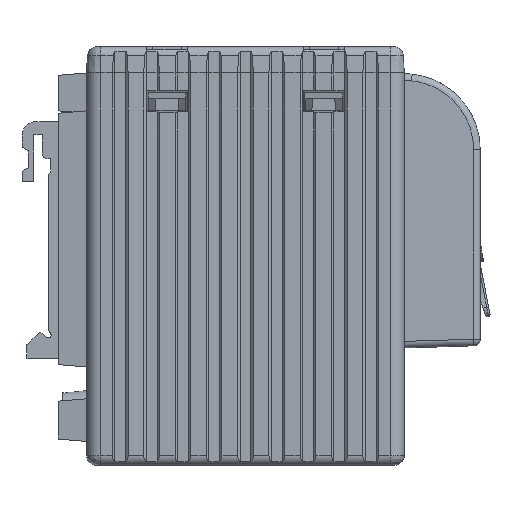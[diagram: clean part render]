
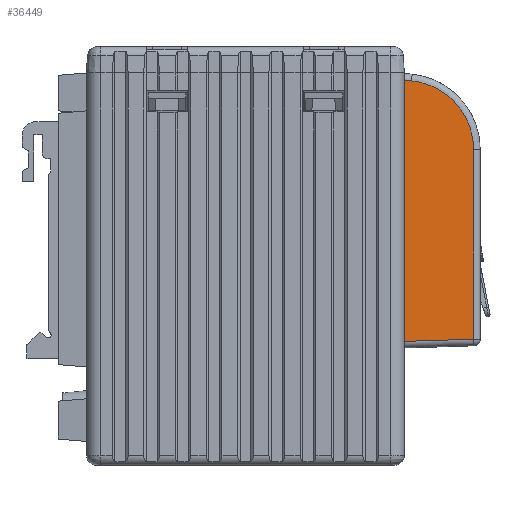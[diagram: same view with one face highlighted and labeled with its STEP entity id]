
A CAD part, left-side view. The second image highlights one B-rep face of the part: STEP entity #36449.
In plain terms, the highlighted planar face has unit normal (-1, -0.031, 0).
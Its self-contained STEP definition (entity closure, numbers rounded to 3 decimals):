
#1681=B_SPLINE_CURVE_WITH_KNOTS('',3,(#70770,#70771,#70772,#70773,#70774,
#70775,#70776),.UNSPECIFIED.,.F.,.F.,(4,1,1,1,4),(0.,0.25,0.5,0.75,1.),
 .UNSPECIFIED.);
#5240=LINE('',#70086,#8684);
#5249=LINE('',#70171,#8693);
#5275=LINE('',#70733,#8719);
#5284=LINE('',#70767,#8728);
#5285=LINE('',#70777,#8729);
#5286=LINE('',#70778,#8730);
#8684=VECTOR('',#46546,1000.);
#8693=VECTOR('',#46561,1000.);
#8719=VECTOR('',#46617,1000.);
#8728=VECTOR('',#46636,1000.);
#8729=VECTOR('',#46637,1000.);
#8730=VECTOR('',#46638,1000.);
#9976=PLANE('',#38864);
#20336=ORIENTED_EDGE('',*,*,#26012,.T.);
#20337=ORIENTED_EDGE('',*,*,#26013,.T.);
#20338=ORIENTED_EDGE('',*,*,#25965,.F.);
#20339=ORIENTED_EDGE('',*,*,#25953,.F.);
#20340=ORIENTED_EDGE('',*,*,#26014,.T.);
#20341=ORIENTED_EDGE('',*,*,#25999,.F.);
#20342=ORIENTED_EDGE('',*,*,#26015,.T.);
#25953=EDGE_CURVE('',#29705,#29706,#5240,.T.);
#25965=EDGE_CURVE('',#29706,#29714,#5249,.T.);
#25999=EDGE_CURVE('',#29733,#29734,#5275,.T.);
#26012=EDGE_CURVE('',#29743,#29744,#5284,.T.);
#26013=EDGE_CURVE('',#29744,#29714,#1681,.T.);
#26014=EDGE_CURVE('',#29705,#29734,#5285,.T.);
#26015=EDGE_CURVE('',#29733,#29743,#5286,.T.);
#29705=VERTEX_POINT('',#70085);
#29706=VERTEX_POINT('',#70087);
#29714=VERTEX_POINT('',#70172);
#29733=VERTEX_POINT('',#70734);
#29734=VERTEX_POINT('',#70735);
#29743=VERTEX_POINT('',#70768);
#29744=VERTEX_POINT('',#70769);
#32345=EDGE_LOOP('',(#20336,#20337,#20338,#20339,#20340,#20341,#20342));
#34335=FACE_BOUND('',#32345,.T.);
#36449=ADVANCED_FACE('',(#34335),#9976,.T.);
#38864=AXIS2_PLACEMENT_3D('',#70766,#46634,#46635);
#46546=DIRECTION('',(0.,0.,1.));
#46561=DIRECTION('',(0.031,-0.994,-0.103));
#46617=DIRECTION('',(0.,0.,1.));
#46634=DIRECTION('',(-1.,-0.031,0.));
#46635=DIRECTION('',(-0.031,1.,0.));
#46636=DIRECTION('',(0.,0.,1.));
#46637=DIRECTION('',(0.,0.,-1.));
#46638=DIRECTION('',(0.031,-0.999,0.031));
#70085=CARTESIAN_POINT('',(-47.6,-8.5,21.7));
#70086=CARTESIAN_POINT('',(-47.6,-8.5,37.342));
#70087=CARTESIAN_POINT('',(-47.6,-8.5,52.983));
#70171=CARTESIAN_POINT('',(-47.576,-9.274,52.903));
#70172=CARTESIAN_POINT('',(-47.552,-10.048,52.823));
#70733=CARTESIAN_POINT('',(-47.6,-8.5,7.3));
#70734=CARTESIAN_POINT('',(-47.6,-8.5,-2.101));
#70735=CARTESIAN_POINT('',(-47.6,-8.5,16.7));
#70766=CARTESIAN_POINT('',(-47.142,-23.144,-2.101));
#70767=CARTESIAN_POINT('',(-47.142,-23.144,18.329));
#70768=CARTESIAN_POINT('',(-47.142,-23.144,-1.643));
#70769=CARTESIAN_POINT('',(-47.142,-23.144,38.3));
#70770=CARTESIAN_POINT('',(-47.142,-23.144,38.3));
#70771=CARTESIAN_POINT('',(-47.142,-23.143,40.091));
#70772=CARTESIAN_POINT('',(-47.163,-22.48,43.655));
#70773=CARTESIAN_POINT('',(-47.252,-19.632,48.302));
#70774=CARTESIAN_POINT('',(-47.387,-15.304,51.613));
#70775=CARTESIAN_POINT('',(-47.496,-11.829,52.639));
#70776=CARTESIAN_POINT('',(-47.552,-10.048,52.823));
#70777=CARTESIAN_POINT('',(-47.6,-8.5,37.342));
#70778=CARTESIAN_POINT('',(-47.371,-15.822,-1.872));
